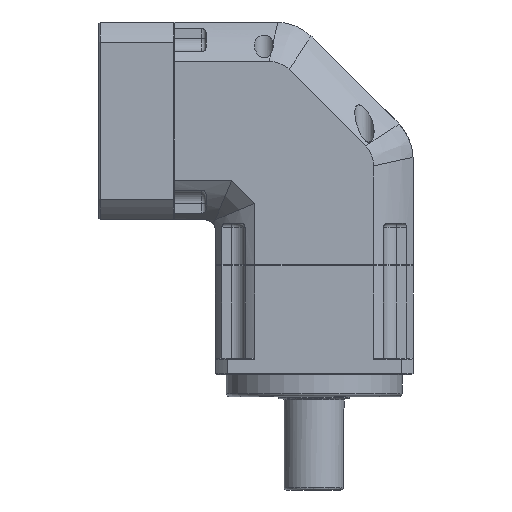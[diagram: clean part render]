
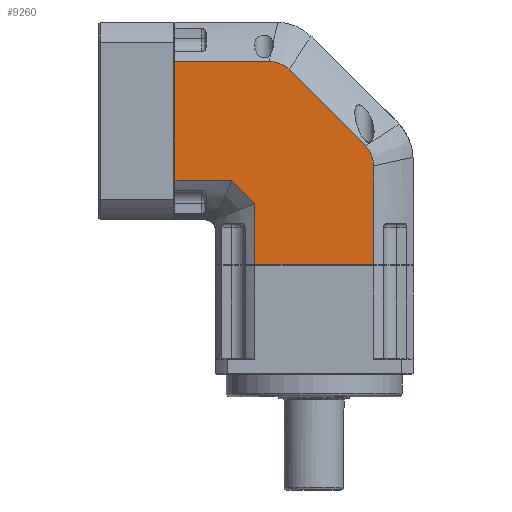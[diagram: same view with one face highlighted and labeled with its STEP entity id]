
A CAD part, front view. The second image highlights one B-rep face of the part: STEP entity #9260.
In plain terms, the highlighted planar face has unit normal (0, -1, 0).
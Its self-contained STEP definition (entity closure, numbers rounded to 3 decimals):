
#7358=CARTESIAN_POINT('',(11.614,-90.,-204.87));
#7359=VERTEX_POINT('',#7358);
#7360=CARTESIAN_POINT('',(11.614,-90.,-313.037));
#7361=VERTEX_POINT('',#7360);
#7362=CARTESIAN_POINT('',(11.614,-90.,-204.87));
#7363=DIRECTION('',(0.0,0.0,-1.0));
#7364=VECTOR('',#7363,108.167);
#7365=LINE('',#7362,#7364);
#7366=EDGE_CURVE('',#7359,#7361,#7365,.T.);
#8012=CARTESIAN_POINT('',(98.127,-90.,-204.87));
#8013=VERTEX_POINT('',#8012);
#8021=CARTESIAN_POINT('',(116.338,-90.,-212.413));
#8022=VERTEX_POINT('',#8021);
#8023=CARTESIAN_POINT('',(98.127,-90.,-204.87));
#8024=CARTESIAN_POINT('',(101.525,-90.,-204.87));
#8025=CARTESIAN_POINT('',(104.855,-90.,-205.501));
#8026=CARTESIAN_POINT('',(111.129,-90.,-208.098));
#8027=CARTESIAN_POINT('',(113.933,-90.,-210.008));
#8028=CARTESIAN_POINT('',(116.338,-90.,-212.413));
#8029=B_SPLINE_CURVE_WITH_KNOTS('',3,(#8023,#8024,#8025,#8026,#8027,#8028),.UNSPECIFIED.,.F.,.U.,(4,2,4),(0.0,1.019,2.039),.UNSPECIFIED.);
#8030=EDGE_CURVE('',#8013,#8022,#8029,.T.);
#8661=CARTESIAN_POINT('',(193.197,-90.,-389.953));
#8662=VERTEX_POINT('',#8661);
#8670=CARTESIAN_POINT('',(85.03,-90.,-389.953));
#8671=VERTEX_POINT('',#8670);
#8672=CARTESIAN_POINT('',(85.03,-90.,-389.953));
#8673=DIRECTION('',(1.0,0.0,0.0));
#8674=VECTOR('',#8673,108.167);
#8675=LINE('',#8672,#8674);
#8676=EDGE_CURVE('',#8671,#8662,#8675,.T.);
#9192=CARTESIAN_POINT('',(98.127,-90.,-204.87));
#9193=DIRECTION('',(-1.0,0.0,0.0));
#9194=VECTOR('',#9193,86.514);
#9195=LINE('',#9192,#9194);
#9196=EDGE_CURVE('',#8013,#7359,#9195,.T.);
#9202=CARTESIAN_POINT('',(85.03,-90.,-168.953));
#9203=DIRECTION('',(0.0,-1.0,0.0));
#9204=DIRECTION('',(0.0,0.0,-1.0));
#9205=AXIS2_PLACEMENT_3D('',#9202,#9203,#9204);
#9206=PLANE('',#9205);
#9207=ORIENTED_EDGE('',*,*,#7366,.T.);
#9208=CARTESIAN_POINT('',(63.991,-90.,-313.037));
#9209=VERTEX_POINT('',#9208);
#9210=CARTESIAN_POINT('',(63.991,-90.,-313.037));
#9211=DIRECTION('',(-1.0,0.0,0.0));
#9212=VECTOR('',#9211,52.377);
#9213=LINE('',#9210,#9212);
#9214=EDGE_CURVE('',#9209,#7361,#9213,.T.);
#9215=ORIENTED_EDGE('',*,*,#9214,.F.);
#9216=CARTESIAN_POINT('',(85.03,-90.,-334.076));
#9217=VERTEX_POINT('',#9216);
#9218=CARTESIAN_POINT('',(63.991,-90.,-313.037));
#9219=DIRECTION('',(0.707,0.,-0.707));
#9220=VECTOR('',#9219,29.754);
#9221=LINE('',#9218,#9220);
#9222=EDGE_CURVE('',#9209,#9217,#9221,.T.);
#9223=ORIENTED_EDGE('',*,*,#9222,.T.);
#9224=CARTESIAN_POINT('',(85.03,-90.,-334.076));
#9225=DIRECTION('',(0.0,0.0,-1.0));
#9226=VECTOR('',#9225,55.877);
#9227=LINE('',#9224,#9226);
#9228=EDGE_CURVE('',#9217,#8671,#9227,.T.);
#9229=ORIENTED_EDGE('',*,*,#9228,.T.);
#9230=ORIENTED_EDGE('',*,*,#8676,.T.);
#9231=CARTESIAN_POINT('',(193.197,-90.,-299.94));
#9232=VERTEX_POINT('',#9231);
#9233=CARTESIAN_POINT('',(193.197,-90.,-299.94));
#9234=DIRECTION('',(0.0,0.0,-1.0));
#9235=VECTOR('',#9234,90.014);
#9236=LINE('',#9233,#9235);
#9237=EDGE_CURVE('',#9232,#8662,#9236,.T.);
#9238=ORIENTED_EDGE('',*,*,#9237,.F.);
#9239=CARTESIAN_POINT('',(185.654,-90.,-281.729));
#9240=VERTEX_POINT('',#9239);
#9241=CARTESIAN_POINT('',(185.654,-90.,-281.729));
#9242=CARTESIAN_POINT('',(188.056,-90.,-284.131));
#9243=CARTESIAN_POINT('',(189.965,-90.,-286.932));
#9244=CARTESIAN_POINT('',(192.565,-90.,-293.205));
#9245=CARTESIAN_POINT('',(193.197,-90.,-296.539));
#9246=CARTESIAN_POINT('',(193.197,-90.,-299.94));
#9247=B_SPLINE_CURVE_WITH_KNOTS('',3,(#9241,#9242,#9243,#9244,#9245,#9246),.UNSPECIFIED.,.F.,.U.,(4,2,4),(0.0,1.019,2.039),.UNSPECIFIED.);
#9248=EDGE_CURVE('',#9240,#9232,#9247,.T.);
#9249=ORIENTED_EDGE('',*,*,#9248,.F.);
#9250=CARTESIAN_POINT('',(185.654,-90.,-281.729));
#9251=DIRECTION('',(-0.707,0.,0.707));
#9252=VECTOR('',#9251,98.027);
#9253=LINE('',#9250,#9252);
#9254=EDGE_CURVE('',#9240,#8022,#9253,.T.);
#9255=ORIENTED_EDGE('',*,*,#9254,.T.);
#9256=ORIENTED_EDGE('',*,*,#8030,.F.);
#9257=ORIENTED_EDGE('',*,*,#9196,.T.);
#9258=EDGE_LOOP('',(#9207,#9215,#9223,#9229,#9230,#9238,#9249,#9255,#9256,#9257));
#9259=FACE_OUTER_BOUND('',#9258,.T.);
#9260=ADVANCED_FACE('',(#9259),#9206,.T.);
